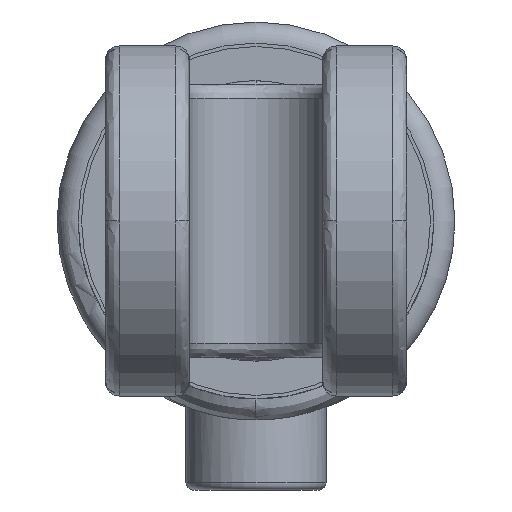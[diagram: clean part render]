
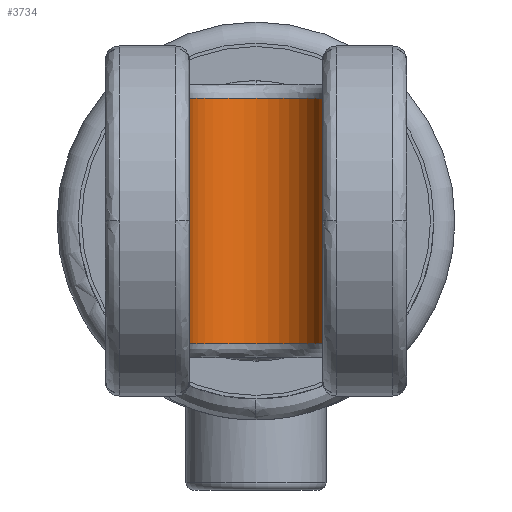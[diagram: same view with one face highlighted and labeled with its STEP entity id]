
A CAD part, left-side view. The second image highlights one B-rep face of the part: STEP entity #3734.
In plain terms, the highlighted cylindrical face has radius 9.5 mm (diameter 19 mm), a partial arc.
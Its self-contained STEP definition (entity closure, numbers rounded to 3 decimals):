
#30 = CARTESIAN_POINT ( 'NONE',  ( 0.293, -17.446, 17.5 ) ) ;
#420 = VECTOR ( 'NONE', #6158, 1000. ) ;
#1385 = VERTEX_POINT ( 'NONE', #30 ) ;
#2043 = CARTESIAN_POINT ( 'NONE',  ( 0.293, -7.946, 17.5 ) ) ;
#3710 = EDGE_CURVE ( 'NONE', #16152, #11086, #5453, .T. ) ;
#3734 = ADVANCED_FACE ( 'NONE', ( #10368 ), #9764, .F. ) ;
#3843 = DIRECTION ( 'NONE',  ( 1., 0., 0. ) ) ;
#4561 = CARTESIAN_POINT ( 'NONE',  ( 0.293, -7.946, -19.5 ) ) ;
#5453 = LINE ( 'NONE', #6397, #6609 ) ;
#5531 = DIRECTION ( 'NONE',  ( 0., 0., 1. ) ) ;
#6158 = DIRECTION ( 'NONE',  ( 0., 0., 1. ) ) ;
#6397 = CARTESIAN_POINT ( 'NONE',  ( 0.293, 1.554, -19.5 ) ) ;
#6563 = ORIENTED_EDGE ( 'NONE', *, *, #20234, .F. ) ;
#6609 = VECTOR ( 'NONE', #19295, 1000. ) ;
#8145 = CARTESIAN_POINT ( 'NONE',  ( 0.293, 1.554, -17.5 ) ) ;
#9764 = CYLINDRICAL_SURFACE ( 'NONE', #18479, 9.5 ) ;
#10089 = AXIS2_PLACEMENT_3D ( 'NONE', #2043, #14851, #3843 ) ;
#10106 = DIRECTION ( 'NONE',  ( 1., 0., 0. ) ) ;
#10368 = FACE_OUTER_BOUND ( 'NONE', #11369, .T. ) ;
#10652 = CARTESIAN_POINT ( 'NONE',  ( 0.293, 1.554, 17.5 ) ) ;
#11086 = VERTEX_POINT ( 'NONE', #8145 ) ;
#11369 = EDGE_LOOP ( 'NONE', ( #11762, #6563, #15821, #16100 ) ) ;
#11759 = EDGE_CURVE ( 'NONE', #1385, #16152, #22594, .T. ) ;
#11762 = ORIENTED_EDGE ( 'NONE', *, *, #15128, .F. ) ;
#14691 = CIRCLE ( 'NONE', #19403, 9.5 ) ;
#14717 = CARTESIAN_POINT ( 'NONE',  ( 0.293, -17.446, -17.5 ) ) ;
#14843 = VERTEX_POINT ( 'NONE', #14717 ) ;
#14851 = DIRECTION ( 'NONE',  ( 0., 0., -1. ) ) ;
#15128 = EDGE_CURVE ( 'NONE', #14843, #1385, #19944, .T. ) ;
#15821 = ORIENTED_EDGE ( 'NONE', *, *, #3710, .F. ) ;
#16100 = ORIENTED_EDGE ( 'NONE', *, *, #11759, .F. ) ;
#16152 = VERTEX_POINT ( 'NONE', #10652 ) ;
#16583 = CARTESIAN_POINT ( 'NONE',  ( 0.293, -7.946, -17.5 ) ) ;
#18457 = DIRECTION ( 'NONE',  ( 1., 0., 0. ) ) ;
#18479 = AXIS2_PLACEMENT_3D ( 'NONE', #4561, #21111, #10106 ) ;
#19295 = DIRECTION ( 'NONE',  ( 0., 0., -1. ) ) ;
#19403 = AXIS2_PLACEMENT_3D ( 'NONE', #16583, #5531, #18457 ) ;
#19944 = LINE ( 'NONE', #20731, #420 ) ;
#20234 = EDGE_CURVE ( 'NONE', #11086, #14843, #14691, .T. ) ;
#20731 = CARTESIAN_POINT ( 'NONE',  ( 0.293, -17.446, -19.5 ) ) ;
#21111 = DIRECTION ( 'NONE',  ( 0., 0., 1. ) ) ;
#22594 = CIRCLE ( 'NONE', #10089, 9.5 ) ;
